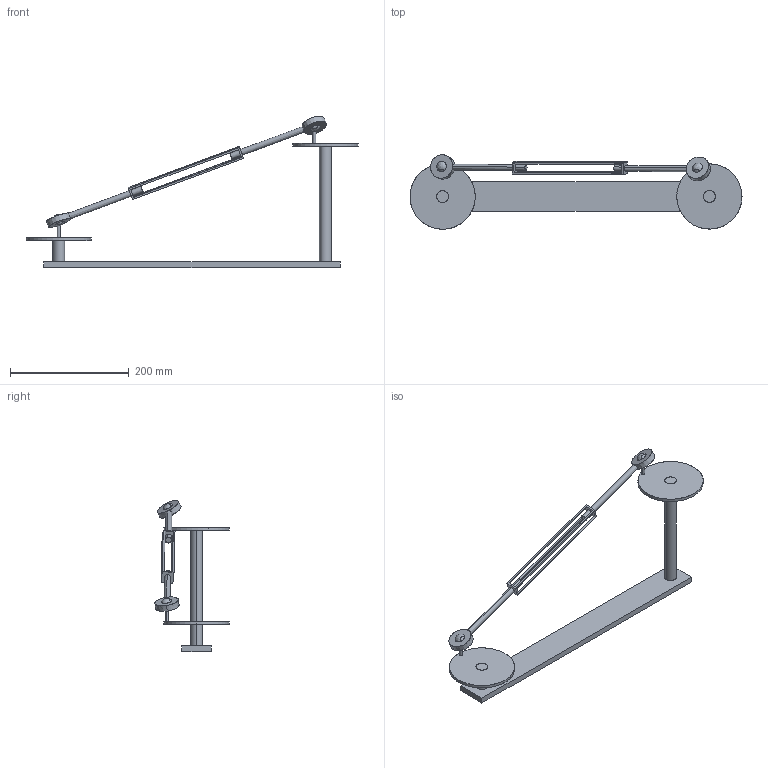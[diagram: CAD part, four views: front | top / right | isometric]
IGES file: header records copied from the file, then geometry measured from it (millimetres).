
Start section: SolidWorks IGES file using analytic representation for surfaces
Global section: file name: C:\Users\Ever Ortega Calderón\Documents\TEC\II S 2022\Física Computacional II\SOLID WORKS\Tarea 2\Pieza 1\Ensamblaje Pieza 1 Tarea 2.IGS; native system: SolidWorks 2022; preprocessor: SolidWorks 2022; author: Ever Ortega Calderón; date: 220827.094033; units: millimetre
Bounding box: 560 x 125.53 x 255.02 mm (x, y, z)
Surface area: 151659.6 mm2 (no closed solid volume)
Topology: 0 solids, 0 shells, 72 faces, 1678 edges, 1672 vertices
Faces by surface type: revolution 38, bspline 34
